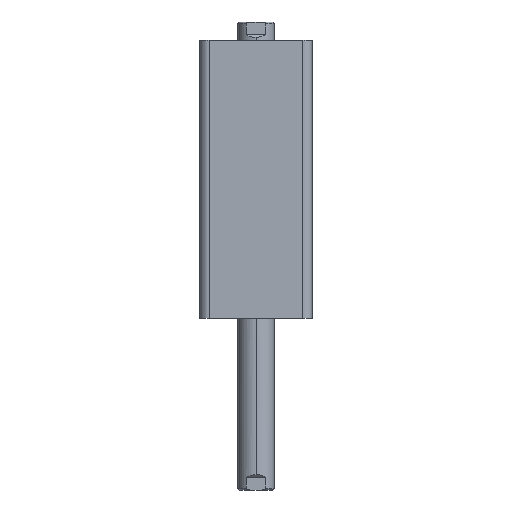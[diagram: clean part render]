
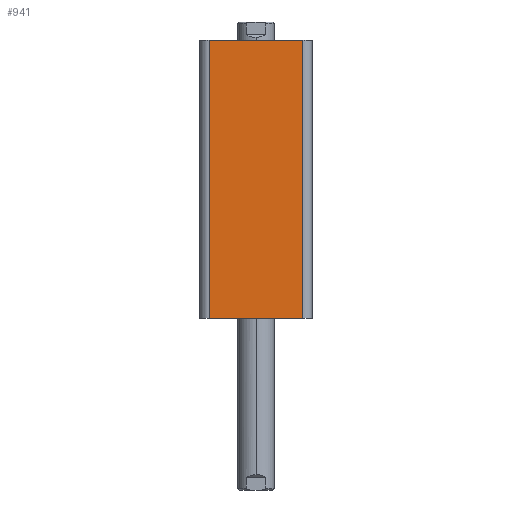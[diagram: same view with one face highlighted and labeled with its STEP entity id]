
A CAD part, left-side view. The second image highlights one B-rep face of the part: STEP entity #941.
In plain terms, the highlighted planar face has unit normal (-1, 0, 0).
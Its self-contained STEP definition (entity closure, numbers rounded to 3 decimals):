
#204 = LINE ( 'NONE', #1259, #207 ) ;
#207 = VECTOR ( 'NONE', #1260, 1000. ) ;
#251 = LINE ( 'NONE', #1784, #253 ) ;
#253 = VECTOR ( 'NONE', #1779, 1000. ) ;
#254 = LINE ( 'NONE', #1791, #257 ) ;
#257 = VECTOR ( 'NONE', #1792, 1000. ) ;
#258 = LINE ( 'NONE', #1795, #261 ) ;
#261 = VECTOR ( 'NONE', #1796, 1000. ) ;
#640 = FACE_OUTER_BOUND ( 'NONE', #2884, .T. ) ;
#941 = ADVANCED_FACE ( 'NONE', ( #640 ), #2103, .F. ) ;
#1259 = CARTESIAN_POINT ( 'NONE',  ( -31., 31., 0. ) ) ;
#1260 = DIRECTION ( 'NONE',  ( 0., -1., 0. ) ) ;
#1609 = EDGE_CURVE ( 'NONE', #3017, #3012, #204, .T. ) ;
#1645 = EDGE_CURVE ( 'NONE', #3007, #3017, #251, .T. ) ;
#1647 = EDGE_CURVE ( 'NONE', #3012, #3024, #254, .T. ) ;
#1649 = EDGE_CURVE ( 'NONE', #3007, #3024, #258, .T. ) ;
#1729 = ORIENTED_EDGE ( 'NONE', *, *, #1645, .T. ) ;
#1730 = ORIENTED_EDGE ( 'NONE', *, *, #1649, .F. ) ;
#1731 = ORIENTED_EDGE ( 'NONE', *, *, #1647, .T. ) ;
#1732 = ORIENTED_EDGE ( 'NONE', *, *, #1609, .T. ) ;
#1779 = DIRECTION ( 'NONE',  ( 0., 0., -1. ) ) ;
#1784 = CARTESIAN_POINT ( 'NONE',  ( -31., 26., 154. ) ) ;
#1791 = CARTESIAN_POINT ( 'NONE',  ( -31., -26., 154. ) ) ;
#1792 = DIRECTION ( 'NONE',  ( 0., 0., 1. ) ) ;
#1795 = CARTESIAN_POINT ( 'NONE',  ( -31., 31., 154. ) ) ;
#1796 = DIRECTION ( 'NONE',  ( 0., -1., 0. ) ) ;
#1910 = CARTESIAN_POINT ( 'NONE',  ( -31., 26., 154. ) ) ;
#1915 = CARTESIAN_POINT ( 'NONE',  ( -31., -26., 0. ) ) ;
#1920 = CARTESIAN_POINT ( 'NONE',  ( -31., 26., 0. ) ) ;
#1927 = CARTESIAN_POINT ( 'NONE',  ( -31., -26., 154. ) ) ;
#2095 = CARTESIAN_POINT ( 'NONE',  ( -31., 31., 154. ) ) ;
#2103 = PLANE ( 'NONE',  #2362 ) ;
#2105 = DIRECTION ( 'NONE',  ( 1., 0., 0. ) ) ;
#2106 = DIRECTION ( 'NONE',  ( 0., 1., 0. ) ) ;
#2362 = AXIS2_PLACEMENT_3D ( 'NONE', #2095, #2105, #2106 ) ;
#2884 = EDGE_LOOP ( 'NONE', ( #1732, #1731, #1730, #1729 ) ) ;
#3007 = VERTEX_POINT ( 'NONE', #1910 ) ;
#3012 = VERTEX_POINT ( 'NONE', #1915 ) ;
#3017 = VERTEX_POINT ( 'NONE', #1920 ) ;
#3024 = VERTEX_POINT ( 'NONE', #1927 ) ;
